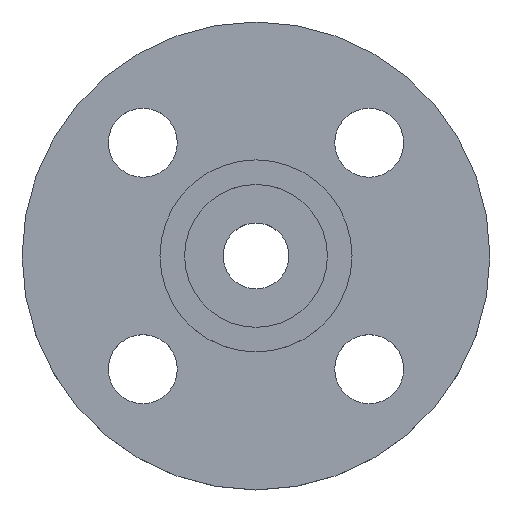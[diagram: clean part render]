
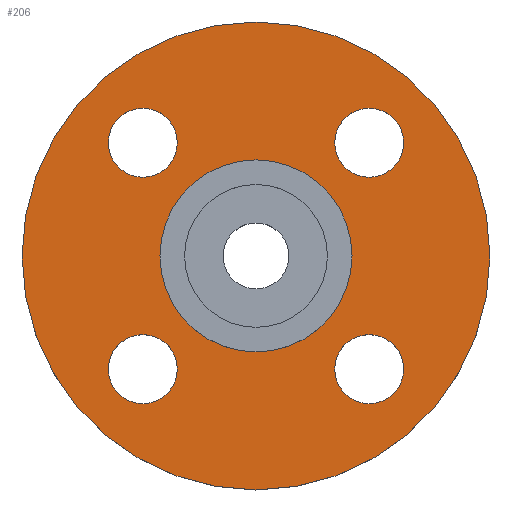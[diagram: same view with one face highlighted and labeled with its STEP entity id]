
A CAD part, top view. The second image highlights one B-rep face of the part: STEP entity #206.
In plain terms, the highlighted planar face has unit normal (0, 0, 1).
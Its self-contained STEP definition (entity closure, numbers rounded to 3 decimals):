
#18 = AXIS2_PLACEMENT_3D ( 'NONE', #197, #200, #201 ) ;
#37 = AXIS2_PLACEMENT_3D ( 'NONE', #119, #689, #554 ) ;
#84 = CARTESIAN_POINT ( 'NONE',  ( 22.981, -22.981, -4.5 ) ) ;
#86 = DIRECTION ( 'NONE',  ( 0., 0., -1. ) ) ;
#92 = DIRECTION ( 'NONE',  ( 1., 0., 0. ) ) ;
#94 = DIRECTION ( 'NONE',  ( 0., 0., -1. ) ) ;
#95 = CARTESIAN_POINT ( 'NONE',  ( -22.981, 22.981, -4.5 ) ) ;
#101 = EDGE_CURVE ( 'NONE', #718, #616, #222, .T. ) ;
#104 = CARTESIAN_POINT ( 'NONE',  ( -15.981, 22.981, -4.5 ) ) ;
#109 = CARTESIAN_POINT ( 'NONE',  ( -15.981, -22.981, -4.5 ) ) ;
#110 = CARTESIAN_POINT ( 'NONE',  ( -47.5, 0., -4.5 ) ) ;
#114 = CARTESIAN_POINT ( 'NONE',  ( 15.981, -22.981, -4.5 ) ) ;
#115 = CIRCLE ( 'NONE', #489, 47.5 ) ;
#118 = CARTESIAN_POINT ( 'NONE',  ( 15.981, 22.981, -4.5 ) ) ;
#119 = CARTESIAN_POINT ( 'NONE',  ( 0., 0., -4.5 ) ) ;
#128 = CIRCLE ( 'NONE', #289, 7. ) ;
#143 = CARTESIAN_POINT ( 'NONE',  ( -29.981, 22.981, -4.5 ) ) ;
#147 = CARTESIAN_POINT ( 'NONE',  ( 19.5, 0., -4.5 ) ) ;
#162 = DIRECTION ( 'NONE',  ( 1., 0., 0. ) ) ;
#167 = EDGE_CURVE ( 'NONE', #616, #718, #402, .T. ) ;
#168 = CARTESIAN_POINT ( 'NONE',  ( -22.981, 22.981, -4.5 ) ) ;
#169 = DIRECTION ( 'NONE',  ( 0., 0., -1. ) ) ;
#170 = DIRECTION ( 'NONE',  ( 1., 0., 0. ) ) ;
#171 = CARTESIAN_POINT ( 'NONE',  ( 0., 0., -4.5 ) ) ;
#174 = DIRECTION ( 'NONE',  ( 0., 0., -1. ) ) ;
#176 = DIRECTION ( 'NONE',  ( -1., 0., 0. ) ) ;
#178 = EDGE_CURVE ( 'NONE', #681, #731, #371, .T. ) ;
#183 = FACE_BOUND ( 'NONE', #733, .T. ) ;
#184 = EDGE_CURVE ( 'NONE', #557, #674, #642, .T. ) ;
#185 = FACE_BOUND ( 'NONE', #551, .T. ) ;
#188 = FACE_BOUND ( 'NONE', #532, .T. ) ;
#189 = FACE_BOUND ( 'NONE', #732, .T. ) ;
#190 = CIRCLE ( 'NONE', #37, 47.5 ) ;
#191 = FACE_BOUND ( 'NONE', #523, .T. ) ;
#194 = FACE_OUTER_BOUND ( 'NONE', #536, .T. ) ;
#196 = PLANE ( 'NONE',  #18 ) ;
#197 = CARTESIAN_POINT ( 'NONE',  ( 19.5, 0., -4.5 ) ) ;
#200 = DIRECTION ( 'NONE',  ( 0., 0., 1. ) ) ;
#201 = DIRECTION ( 'NONE',  ( 1., 0., 0. ) ) ;
#203 = AXIS2_PLACEMENT_3D ( 'NONE', #171, #174, #176 ) ;
#206 = ADVANCED_FACE ( 'NONE', ( #183, #185, #188, #189, #191, #194 ), #196, .T. ) ;
#212 = CARTESIAN_POINT ( 'NONE',  ( 47.5, 0., -4.5 ) ) ;
#221 = CIRCLE ( 'NONE', #235, 19.5 ) ;
#222 = CIRCLE ( 'NONE', #231, 7. ) ;
#231 = AXIS2_PLACEMENT_3D ( 'NONE', #795, #796, #797 ) ;
#235 = AXIS2_PLACEMENT_3D ( 'NONE', #375, #376, #378 ) ;
#248 = CARTESIAN_POINT ( 'NONE',  ( 29.981, -22.981, -4.5 ) ) ;
#252 = CIRCLE ( 'NONE', #547, 7. ) ;
#267 = DIRECTION ( 'NONE',  ( 0., 0., -1. ) ) ;
#268 = CARTESIAN_POINT ( 'NONE',  ( -29.981, -22.981, -4.5 ) ) ;
#280 = CARTESIAN_POINT ( 'NONE',  ( -19.5, 0., -4.5 ) ) ;
#289 = AXIS2_PLACEMENT_3D ( 'NONE', #360, #363, #364 ) ;
#292 = AXIS2_PLACEMENT_3D ( 'NONE', #410, #417, #419 ) ;
#309 = CARTESIAN_POINT ( 'NONE',  ( 29.981, 22.981, -4.5 ) ) ;
#325 = CIRCLE ( 'NONE', #292, 7. ) ;
#333 = CARTESIAN_POINT ( 'NONE',  ( 22.981, 22.981, -4.5 ) ) ;
#338 = DIRECTION ( 'NONE',  ( 1., 0., 0. ) ) ;
#340 = CARTESIAN_POINT ( 'NONE',  ( 0., 0., -4.5 ) ) ;
#342 = DIRECTION ( 'NONE',  ( -1., 0., 0. ) ) ;
#348 = EDGE_CURVE ( 'NONE', #508, #725, #128, .T. ) ;
#355 = EDGE_CURVE ( 'NONE', #674, #557, #221, .T. ) ;
#360 = CARTESIAN_POINT ( 'NONE',  ( -22.981, -22.981, -4.5 ) ) ;
#363 = DIRECTION ( 'NONE',  ( 0., 0., -1. ) ) ;
#364 = DIRECTION ( 'NONE',  ( 1., 0., 0. ) ) ;
#371 = CIRCLE ( 'NONE', #738, 7. ) ;
#375 = CARTESIAN_POINT ( 'NONE',  ( 0., 0., -4.5 ) ) ;
#376 = DIRECTION ( 'NONE',  ( 0., 0., -1. ) ) ;
#378 = DIRECTION ( 'NONE',  ( -1., 0., 0. ) ) ;
#402 = CIRCLE ( 'NONE', #477, 7. ) ;
#410 = CARTESIAN_POINT ( 'NONE',  ( 22.981, 22.981, -4.5 ) ) ;
#417 = DIRECTION ( 'NONE',  ( 0., 0., -1. ) ) ;
#419 = DIRECTION ( 'NONE',  ( 1., 0., 0. ) ) ;
#426 = CIRCLE ( 'NONE', #757, 7. ) ;
#430 = CARTESIAN_POINT ( 'NONE',  ( -22.981, -22.981, -4.5 ) ) ;
#432 = DIRECTION ( 'NONE',  ( 0., 0., -1. ) ) ;
#433 = DIRECTION ( 'NONE',  ( 1., 0., 0. ) ) ;
#452 = DIRECTION ( 'NONE',  ( 0., 0., -1. ) ) ;
#455 = EDGE_CURVE ( 'NONE', #550, #716, #325, .T. ) ;
#459 = AXIS2_PLACEMENT_3D ( 'NONE', #333, #267, #338 ) ;
#470 = EDGE_CURVE ( 'NONE', #725, #508, #252, .T. ) ;
#477 = AXIS2_PLACEMENT_3D ( 'NONE', #84, #86, #162 ) ;
#489 = AXIS2_PLACEMENT_3D ( 'NONE', #340, #452, #342 ) ;
#492 = EDGE_CURVE ( 'NONE', #716, #550, #611, .T. ) ;
#508 = VERTEX_POINT ( 'NONE', #268 ) ;
#513 = EDGE_CURVE ( 'NONE', #721, #621, #115, .T. ) ;
#523 = EDGE_LOOP ( 'NONE', ( #628, #629 ) ) ;
#532 = EDGE_LOOP ( 'NONE', ( #624, #625 ) ) ;
#536 = EDGE_LOOP ( 'NONE', ( #630, #632 ) ) ;
#547 = AXIS2_PLACEMENT_3D ( 'NONE', #430, #432, #433 ) ;
#550 = VERTEX_POINT ( 'NONE', #309 ) ;
#551 = EDGE_LOOP ( 'NONE', ( #622, #623 ) ) ;
#554 = DIRECTION ( 'NONE',  ( -1., 0., 0. ) ) ;
#557 = VERTEX_POINT ( 'NONE', #280 ) ;
#611 = CIRCLE ( 'NONE', #459, 7. ) ;
#616 = VERTEX_POINT ( 'NONE', #248 ) ;
#617 = ORIENTED_EDGE ( 'NONE', *, *, #167, .T. ) ;
#620 = ORIENTED_EDGE ( 'NONE', *, *, #101, .T. ) ;
#621 = VERTEX_POINT ( 'NONE', #212 ) ;
#622 = ORIENTED_EDGE ( 'NONE', *, *, #470, .T. ) ;
#623 = ORIENTED_EDGE ( 'NONE', *, *, #348, .T. ) ;
#624 = ORIENTED_EDGE ( 'NONE', *, *, #752, .T. ) ;
#625 = ORIENTED_EDGE ( 'NONE', *, *, #178, .T. ) ;
#626 = ORIENTED_EDGE ( 'NONE', *, *, #455, .T. ) ;
#627 = ORIENTED_EDGE ( 'NONE', *, *, #492, .T. ) ;
#628 = ORIENTED_EDGE ( 'NONE', *, *, #184, .T. ) ;
#629 = ORIENTED_EDGE ( 'NONE', *, *, #355, .T. ) ;
#630 = ORIENTED_EDGE ( 'NONE', *, *, #651, .F. ) ;
#632 = ORIENTED_EDGE ( 'NONE', *, *, #513, .F. ) ;
#642 = CIRCLE ( 'NONE', #203, 19.5 ) ;
#651 = EDGE_CURVE ( 'NONE', #621, #721, #190, .T. ) ;
#674 = VERTEX_POINT ( 'NONE', #147 ) ;
#681 = VERTEX_POINT ( 'NONE', #143 ) ;
#689 = DIRECTION ( 'NONE',  ( 0., 0., -1. ) ) ;
#716 = VERTEX_POINT ( 'NONE', #118 ) ;
#718 = VERTEX_POINT ( 'NONE', #114 ) ;
#721 = VERTEX_POINT ( 'NONE', #110 ) ;
#725 = VERTEX_POINT ( 'NONE', #109 ) ;
#731 = VERTEX_POINT ( 'NONE', #104 ) ;
#732 = EDGE_LOOP ( 'NONE', ( #626, #627 ) ) ;
#733 = EDGE_LOOP ( 'NONE', ( #617, #620 ) ) ;
#738 = AXIS2_PLACEMENT_3D ( 'NONE', #168, #169, #170 ) ;
#752 = EDGE_CURVE ( 'NONE', #731, #681, #426, .T. ) ;
#757 = AXIS2_PLACEMENT_3D ( 'NONE', #95, #94, #92 ) ;
#795 = CARTESIAN_POINT ( 'NONE',  ( 22.981, -22.981, -4.5 ) ) ;
#796 = DIRECTION ( 'NONE',  ( 0., 0., -1. ) ) ;
#797 = DIRECTION ( 'NONE',  ( 1., 0., 0. ) ) ;
